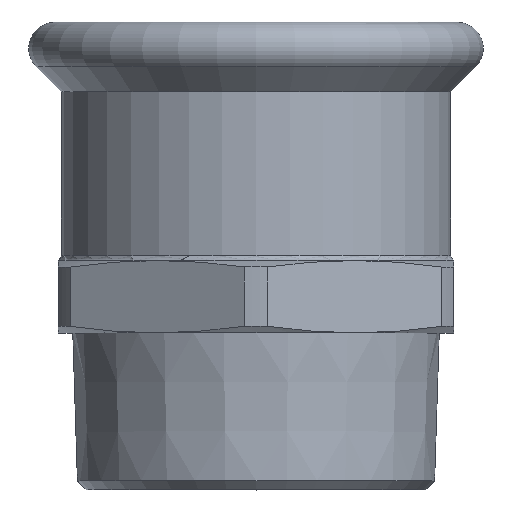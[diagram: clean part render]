
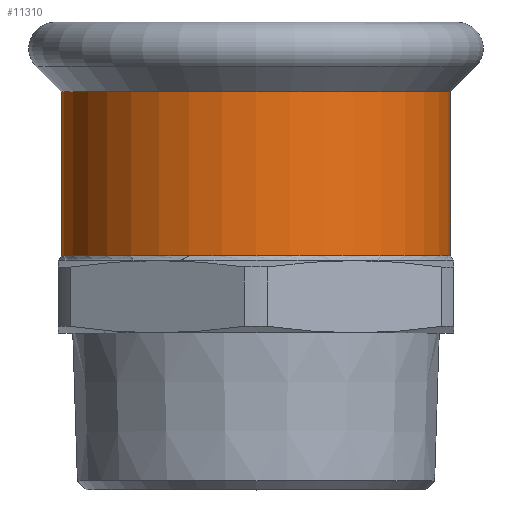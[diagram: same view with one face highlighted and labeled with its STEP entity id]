
A CAD part, top view. The second image highlights one B-rep face of the part: STEP entity #11310.
In plain terms, the highlighted cylindrical face has radius 40.375 mm (diameter 80.75 mm), a partial arc.
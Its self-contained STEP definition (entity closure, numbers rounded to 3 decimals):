
#2290=CARTESIAN_POINT('',(40.375,40.563,0.));
#2300=VERTEX_POINT('',#2290);
#2350=CARTESIAN_POINT('',(0.,40.563,0.));
#2360=DIRECTION('',(0.,1.,0.));
#2370=DIRECTION('',(1.,0.,0.));
#2380=AXIS2_PLACEMENT_3D('',#2350,#2360,#2370);
#2390=CIRCLE('',#2380,40.375);
#2400=CARTESIAN_POINT('',(-40.375,40.563,0.
));
#2410=VERTEX_POINT('',#2400);
#2420=EDGE_CURVE('',#2410,#2300,#2390,.T.);
#11000=CARTESIAN_POINT('',(0.,20.282,0.));
#11010=DIRECTION('',(0.,1.,0.));
#11020=DIRECTION('',(1.,0.,0.));
#11030=AXIS2_PLACEMENT_3D('',#11000,#11010,#11020);
#11040=CYLINDRICAL_SURFACE('',#11030,40.375);
#11050=CARTESIAN_POINT('',(-40.375,20.282,
0.));
#11060=DIRECTION('',(0.,1.,0.));
#11070=VECTOR('',#11060,1.);
#11080=LINE('',#11050,#11070);
#11090=CARTESIAN_POINT('',(-40.375,6.5,0.));
#11100=VERTEX_POINT('',#11090);
#11110=EDGE_CURVE('',#11100,#2410,#11080,.T.);
#11120=ORIENTED_EDGE('',*,*,#11110,.F.);
#11130=ORIENTED_EDGE('',*,*,#2420,.F.);
#11140=CARTESIAN_POINT('',(40.375,20.282,0.));
#11150=DIRECTION('',(0.,1.,0.));
#11160=VECTOR('',#11150,1.);
#11170=LINE('',#11140,#11160);
#11180=CARTESIAN_POINT('',(40.375,6.5,0.));
#11190=VERTEX_POINT('',#11180);
#11200=EDGE_CURVE('',#11190,#2300,#11170,.T.);
#11210=ORIENTED_EDGE('',*,*,#11200,.T.);
#11220=CARTESIAN_POINT('',(0.,6.5,0.));
#11230=DIRECTION('',(0.,1.,0.));
#11240=DIRECTION('',(1.,0.,0.));
#11250=AXIS2_PLACEMENT_3D('',#11220,#11230,#11240);
#11260=CIRCLE('',#11250,40.375);
#11270=EDGE_CURVE('',#11100,#11190,#11260,.T.);
#11280=ORIENTED_EDGE('',*,*,#11270,.T.);
#11290=EDGE_LOOP('',(#11280,#11210,#11130,#11120));
#11300=FACE_OUTER_BOUND('',#11290,.T.);
#11310=ADVANCED_FACE('',(#11300),#11040,.T.);
